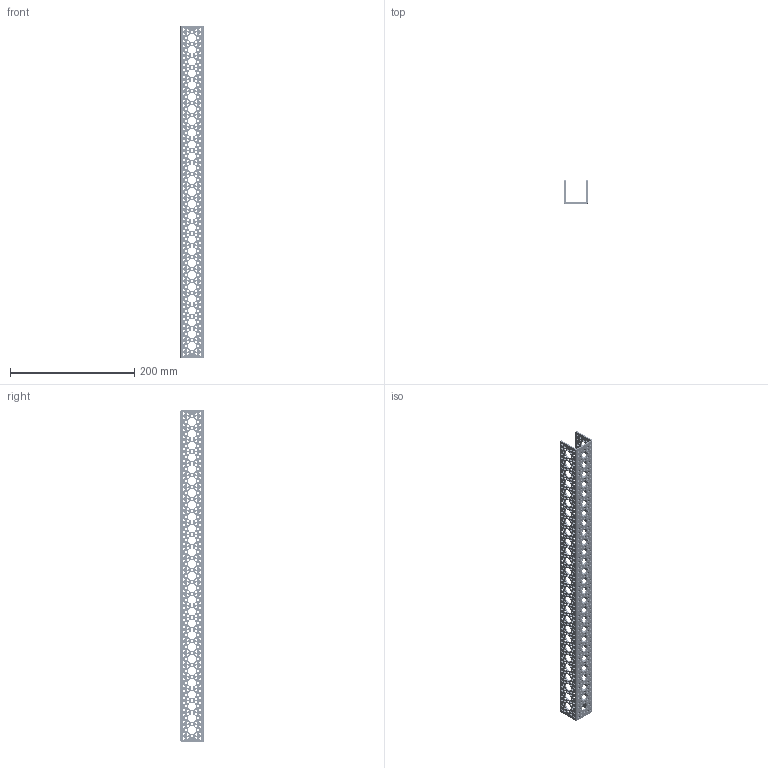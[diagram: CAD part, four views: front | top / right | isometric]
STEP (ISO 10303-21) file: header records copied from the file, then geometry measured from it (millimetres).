
FILE_DESCRIPTION (( 'STEP AP203' ), '1' );
FILE_NAME ('585465.STEP', '2016-08-22T19:46:09', ( '' ), ( '' ), 'SwSTEP 2.0', 'SolidWorks 2014', '' );
FILE_SCHEMA (( 'CONFIG_CONTROL_DESIGN' ));
Length unit declared in the file: inch
Products named in the file (1): 585465
Bounding box: 38.1 x 38.1 x 533.4 mm (x, y, z)
Volume: 87331.8 mm3; surface area: 110612.8 mm2
Topology: 1 solids, 1 shells, 2014 faces, 6036 edges, 4024 vertices
Faces by surface type: cylinder 2004, plane 10
Entity records: 74503 total; most frequent: DIRECTION 14074, CARTESIAN_POINT 12075, ORIENTED_EDGE 12072, EDGE_CURVE 6036, AXIS2_PLACEMENT_3D 6023, VERTEX_POINT 4024, EDGE_LOOP 4012, CIRCLE 4008
